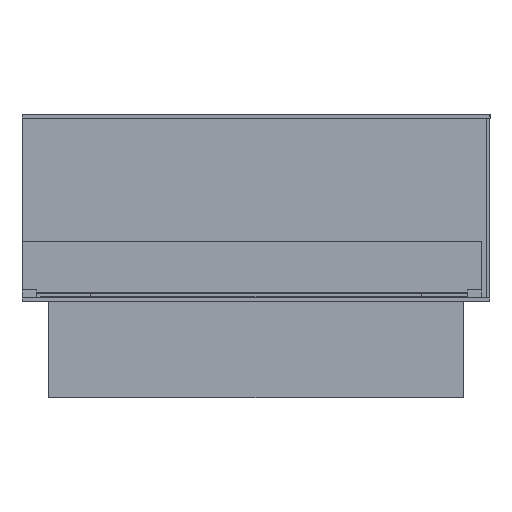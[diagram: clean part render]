
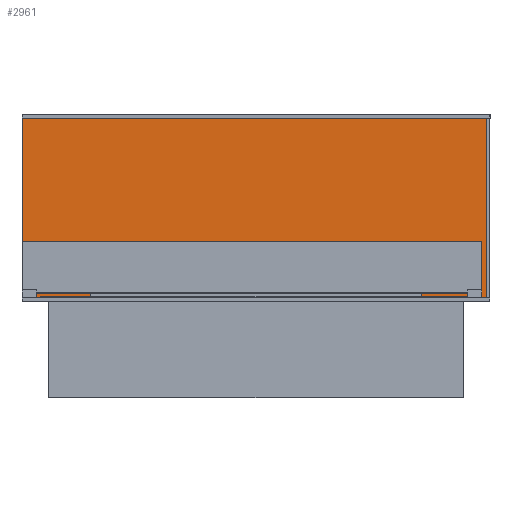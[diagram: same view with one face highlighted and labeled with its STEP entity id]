
A CAD part, top view. The second image highlights one B-rep face of the part: STEP entity #2961.
In plain terms, the highlighted planar face has unit normal (0, 0, 1).
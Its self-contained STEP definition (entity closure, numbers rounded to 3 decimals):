
#52 = CARTESIAN_POINT ( 'NONE',  ( -793.615, 196.083, -296.501 ) ) ;
#57 = VECTOR ( 'NONE', #3662, 1000. ) ;
#236 = CARTESIAN_POINT ( 'NONE',  ( -793.615, -203.917, -296.501 ) ) ;
#331 = VERTEX_POINT ( 'NONE', #3237 ) ;
#738 = VECTOR ( 'NONE', #2964, 1000. ) ;
#889 = DIRECTION ( 'NONE',  ( 1., 0., 0. ) ) ;
#1000 = EDGE_CURVE ( 'NONE', #331, #5054, #1595, .T. ) ;
#1113 = CARTESIAN_POINT ( 'NONE',  ( 206.385, 196.083, -296.501 ) ) ;
#1224 = ORIENTED_EDGE ( 'NONE', *, *, #1000, .T. ) ;
#1241 = VECTOR ( 'NONE', #4110, 1000. ) ;
#1595 = LINE ( 'NONE', #1113, #1241 ) ;
#1690 = EDGE_CURVE ( 'NONE', #4343, #331, #4548, .T. ) ;
#2532 = EDGE_CURVE ( 'NONE', #5054, #2802, #2582, .T. ) ;
#2582 = LINE ( 'NONE', #52, #738 ) ;
#2637 = ORIENTED_EDGE ( 'NONE', *, *, #5412, .T. ) ;
#2802 = VERTEX_POINT ( 'NONE', #5420 ) ;
#2890 = ORIENTED_EDGE ( 'NONE', *, *, #2532, .T. ) ;
#2900 = CARTESIAN_POINT ( 'NONE',  ( -793.615, -203.917, -296.501 ) ) ;
#2961 = ADVANCED_FACE ( 'NONE', ( #3986 ), #4743, .T. ) ;
#2964 = DIRECTION ( 'NONE',  ( -1., 0., 0. ) ) ;
#2982 = CARTESIAN_POINT ( 'NONE',  ( 206.385, 196.083, -296.501 ) ) ;
#3015 = AXIS2_PLACEMENT_3D ( 'NONE', #236, #3089, #4865 ) ;
#3089 = DIRECTION ( 'NONE',  ( 0., 0., 1. ) ) ;
#3201 = LINE ( 'NONE', #4888, #57 ) ;
#3237 = CARTESIAN_POINT ( 'NONE',  ( 206.385, -203.917, -296.501 ) ) ;
#3662 = DIRECTION ( 'NONE',  ( 0., -1., 0. ) ) ;
#3943 = ORIENTED_EDGE ( 'NONE', *, *, #1690, .T. ) ;
#3986 = FACE_OUTER_BOUND ( 'NONE', #5200, .T. ) ;
#4110 = DIRECTION ( 'NONE',  ( 0., 1., 0. ) ) ;
#4143 = VECTOR ( 'NONE', #889, 1000. ) ;
#4343 = VERTEX_POINT ( 'NONE', #2900 ) ;
#4548 = LINE ( 'NONE', #4598, #4143 ) ;
#4598 = CARTESIAN_POINT ( 'NONE',  ( -793.615, -203.917, -296.501 ) ) ;
#4743 = PLANE ( 'NONE',  #3015 ) ;
#4865 = DIRECTION ( 'NONE',  ( 1., 0., 0. ) ) ;
#4888 = CARTESIAN_POINT ( 'NONE',  ( -793.615, 196.083, -296.501 ) ) ;
#5054 = VERTEX_POINT ( 'NONE', #2982 ) ;
#5200 = EDGE_LOOP ( 'NONE', ( #2637, #3943, #1224, #2890 ) ) ;
#5412 = EDGE_CURVE ( 'NONE', #2802, #4343, #3201, .T. ) ;
#5420 = CARTESIAN_POINT ( 'NONE',  ( -793.615, 196.083, -296.501 ) ) ;
